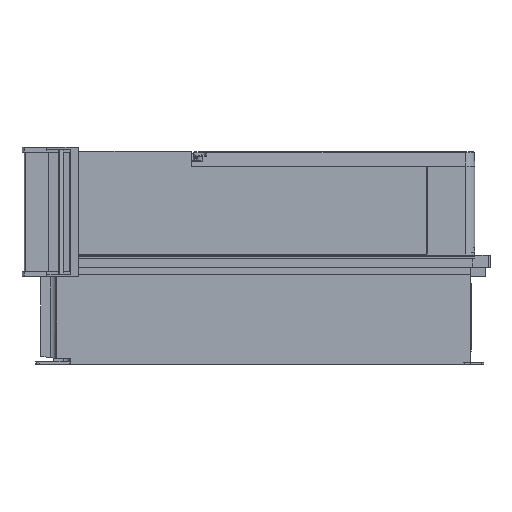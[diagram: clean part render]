
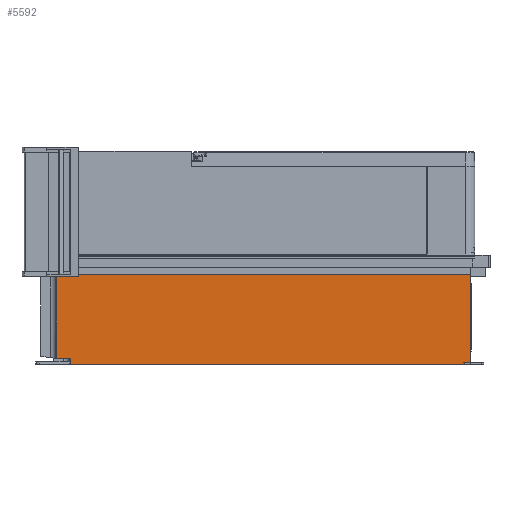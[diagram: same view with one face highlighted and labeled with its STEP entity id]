
A CAD part, left-side view. The second image highlights one B-rep face of the part: STEP entity #5592.
In plain terms, the highlighted planar face has unit normal (-1, 0, 0).
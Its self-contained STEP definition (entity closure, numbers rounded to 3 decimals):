
#5592=ADVANCED_FACE('',(#13778),#13779,.T.);
#13778=FACE_OUTER_BOUND('',#27544,.T.);
#13779=PLANE('',#27545);
#27544=EDGE_LOOP('',(#45811,#45812,#45813,#45814,#45815,#45816));
#27545=AXIS2_PLACEMENT_3D('',#45817,#45818,#45819);
#45811=ORIENTED_EDGE('',*,*,#73022,.T.);
#45812=ORIENTED_EDGE('',*,*,#72938,.T.);
#45813=ORIENTED_EDGE('',*,*,#72997,.T.);
#45814=ORIENTED_EDGE('',*,*,#73020,.F.);
#45815=ORIENTED_EDGE('',*,*,#73023,.F.);
#45816=ORIENTED_EDGE('',*,*,#72958,.F.);
#45817=CARTESIAN_POINT('',(-92.5,387.109,-5.5));
#45818=DIRECTION('',(-1.0,0.0,0.0));
#45819=DIRECTION('',(0.0,0.0,1.0));
#72938=EDGE_CURVE('',#88008,#88006,#88009,.T.);
#72958=EDGE_CURVE('',#88040,#88042,#88043,.T.);
#72997=EDGE_CURVE('',#88006,#88095,#88097,.T.);
#73020=EDGE_CURVE('',#88135,#88095,#88137,.T.);
#73022=EDGE_CURVE('',#88040,#88008,#88139,.T.);
#73023=EDGE_CURVE('',#88042,#88135,#88140,.T.);
#88006=VERTEX_POINT('',#112218);
#88008=VERTEX_POINT('',#112221);
#88009=LINE('',#112222,#112223);
#88040=VERTEX_POINT('',#112265);
#88042=VERTEX_POINT('',#112268);
#88043=LINE('',#112269,#112270);
#88095=VERTEX_POINT('',#112343);
#88097=LINE('',#112346,#112347);
#88135=VERTEX_POINT('',#112401);
#88137=LINE('',#112404,#112405);
#88139=LINE('',#112407,#112408);
#88140=LINE('',#112409,#112410);
#112218=CARTESIAN_POINT('',(-92.5,-50.0,-5.5));
#112221=CARTESIAN_POINT('',(-92.5,373.0,-5.5));
#112222=CARTESIAN_POINT('',(-92.5,373.0,-5.5));
#112223=VECTOR('',#137859,423.0);
#112265=CARTESIAN_POINT('',(-92.5,373.0,1.0));
#112268=CARTESIAN_POINT('',(-92.5,387.109,1.0));
#112269=CARTESIAN_POINT('',(-92.5,373.0,1.0));
#112270=VECTOR('',#137884,14.109);
#112343=CARTESIAN_POINT('',(-92.5,-50.0,89.0));
#112346=CARTESIAN_POINT('',(-92.5,-50.0,-5.5));
#112347=VECTOR('',#137919,94.5);
#112401=CARTESIAN_POINT('',(-92.5,387.109,89.0));
#112404=CARTESIAN_POINT('',(-92.5,387.109,89.0));
#112405=VECTOR('',#137946,437.109);
#112407=CARTESIAN_POINT('',(-92.5,373.0,1.0));
#112408=VECTOR('',#137947,6.5);
#112409=CARTESIAN_POINT('',(-92.5,387.109,1.0));
#112410=VECTOR('',#137948,88.0);
#137859=DIRECTION('',(0.0,-1.0,0.0));
#137884=DIRECTION('',(0.0,1.0,0.0));
#137919=DIRECTION('',(0.0,0.0,1.0));
#137946=DIRECTION('',(0.0,-1.0,0.0));
#137947=DIRECTION('',(0.0,0.0,-1.0));
#137948=DIRECTION('',(0.0,0.0,1.0));
